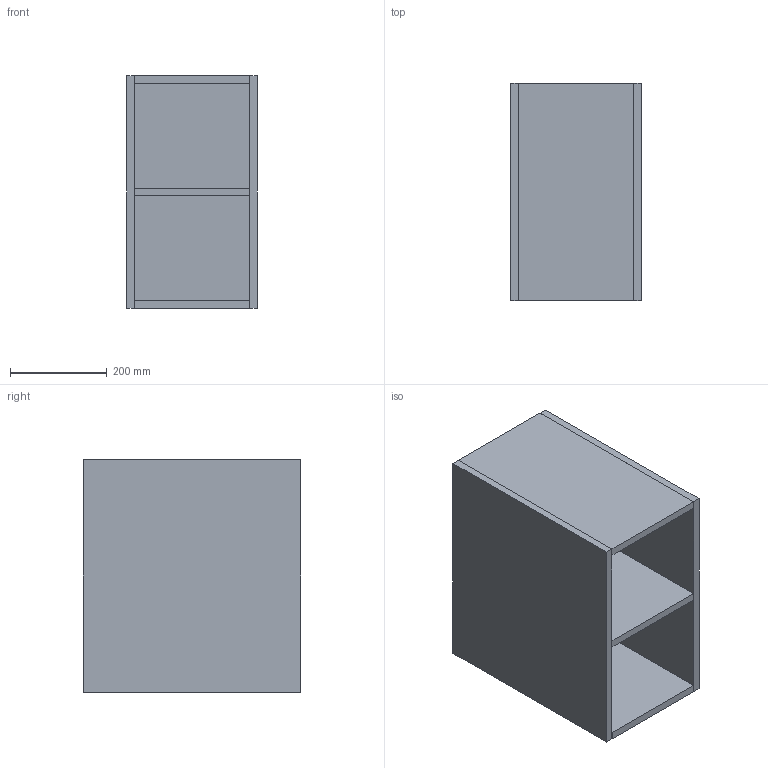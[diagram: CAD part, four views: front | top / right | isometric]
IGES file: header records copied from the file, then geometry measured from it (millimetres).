
Start section: Data from Parasolid IGES Translator 19.0.9, Copyright(c) 2006 Siemens PL M Software. All Rights Reserved.
Global section: file name: noorth-SI-H 48 D 47 W 27_8505.igs; native system: By Siemens PLM Incorporated; preprocessor: XPlus GENERIC/IGES 19.0.9; author: Noname; organization: Noname; date: 20200601.111311; units: metre
Bounding box: 270.01 x 448.06 x 480 mm (x, y, z)
Volume: 12304811.7 mm3; surface area: 1842322.6 mm2
Topology: 6 solids, 6 shells, 36 faces, 72 edges, 48 vertices
Faces by surface type: plane 36
